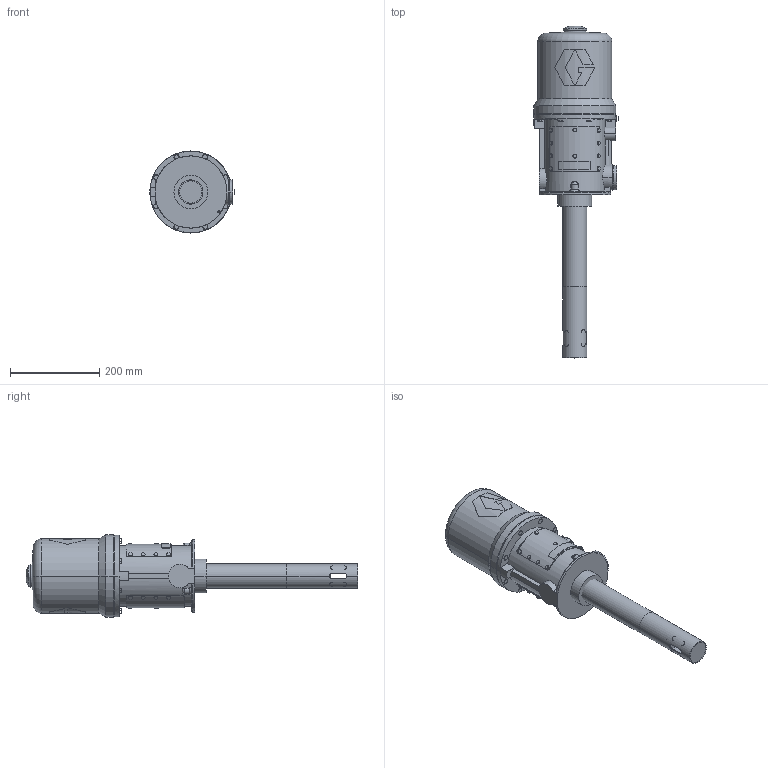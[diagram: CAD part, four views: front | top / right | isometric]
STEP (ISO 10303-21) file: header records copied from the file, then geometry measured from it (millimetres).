
FILE_DESCRIPTION((''),'2;1');
FILE_NAME('965124-EN-P_PRT','2024-02-21T09:50:15',('qtmwp1'),(''),'CREO PARAMETRIC BY PTC INC, 2021072','CREO PARAMETRIC BY PTC INC, 2021072','');
FILE_SCHEMA(('CONFIG_CONTROL_DESIGN'));
Length unit declared in the file: inch
Products named in the file (1): 965124-EN-P_PRT
Bounding box: 189.36 x 744.98 x 184.15 mm (x, y, z)
Surface area: 427679.8 mm2 (no closed solid volume)
Topology: 0 solids, 84 shells, 337 faces, 1026 edges, 760 vertices
Faces by surface type: plane 159, cylinder 106, cone 52, torus 12, bspline 8
Entity records: 12818 total; most frequent: CARTESIAN_POINT 4209, DIRECTION 1730, ORIENTED_EDGE 1545, EDGE_CURVE 1026, VERTEX_POINT 760, AXIS2_PLACEMENT_3D 639, VECTOR 452, LINE 452
